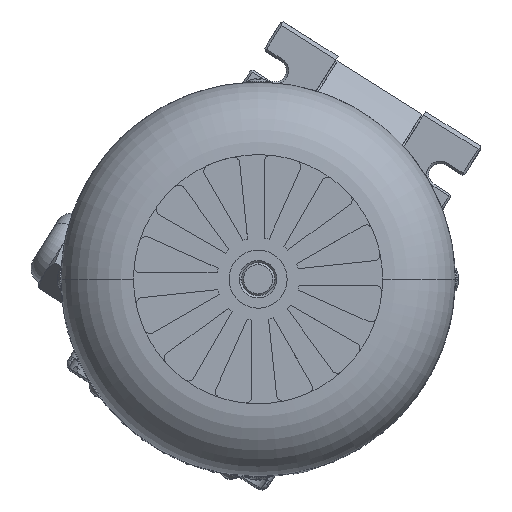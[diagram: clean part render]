
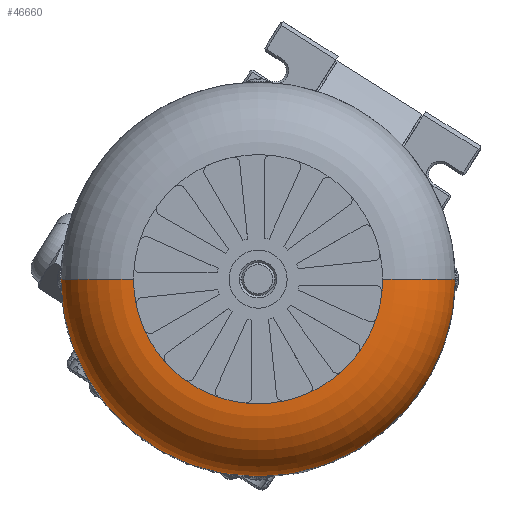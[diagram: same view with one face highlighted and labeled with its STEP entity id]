
A CAD part, top view. The second image highlights one B-rep face of the part: STEP entity #46660.
In plain terms, the highlighted toroidal (fillet/blend) face has major radius 30 mm and minor radius 17.5 mm.
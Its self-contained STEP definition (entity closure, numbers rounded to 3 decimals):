
#21559=CARTESIAN_POINT('',(-30.0,0.,37.5));
#21560=VERTEX_POINT('',#21559);
#21561=CARTESIAN_POINT('',(-47.5,0.,20.));
#21562=VERTEX_POINT('',#21561);
#21563=CARTESIAN_POINT('',(-30.0,0.,20.0));
#21564=DIRECTION('',(0.0,-1.0,0.0));
#21565=DIRECTION('',(-1.0,0.0,0.0));
#21566=AXIS2_PLACEMENT_3D('',#21563,#21564,#21565);
#21567=CIRCLE('',#21566,17.5);
#21568=EDGE_CURVE('',#21560,#21562,#21567,.T.);
#21678=CARTESIAN_POINT('',(30.0,0.,37.5));
#21679=VERTEX_POINT('',#21678);
#21687=CARTESIAN_POINT('',(47.5,0.,20.0));
#21688=VERTEX_POINT('',#21687);
#21689=CARTESIAN_POINT('',(30.0,0.,20.0));
#21690=DIRECTION('',(0.0,-1.0,0.0));
#21691=DIRECTION('',(1.0,0.0,0.0));
#21692=AXIS2_PLACEMENT_3D('',#21689,#21690,#21691);
#21693=CIRCLE('',#21692,17.5);
#21694=EDGE_CURVE('',#21688,#21679,#21693,.T.);
#22006=CARTESIAN_POINT('',(0.0,0.,20.0));
#22007=DIRECTION('',(0.0,0.0,1.0));
#22008=DIRECTION('',(-1.0,0.0,0.0));
#22009=AXIS2_PLACEMENT_3D('',#22006,#22007,#22008);
#22010=CIRCLE('',#22009,47.5);
#22011=EDGE_CURVE('',#21562,#21688,#22010,.T.);
#43167=CARTESIAN_POINT('',(-27.415,-12.182,37.5));
#43168=VERTEX_POINT('',#43167);
#43273=CARTESIAN_POINT('',(-17.651,-24.258,37.5));
#43274=VERTEX_POINT('',#43273);
#43379=CARTESIAN_POINT('',(-3.157,-29.833,37.5));
#43380=VERTEX_POINT('',#43379);
#43485=CARTESIAN_POINT('',(12.182,-27.415,37.5));
#43486=VERTEX_POINT('',#43485);
#43591=CARTESIAN_POINT('',(24.258,-17.651,37.5));
#43592=VERTEX_POINT('',#43591);
#43697=CARTESIAN_POINT('',(29.833,-3.157,37.5));
#43698=VERTEX_POINT('',#43697);
#44323=CARTESIAN_POINT('',(-29.34,-6.259,37.5));
#44324=VERTEX_POINT('',#44323);
#44354=CARTESIAN_POINT('',(0.0,0.,37.5));
#44355=DIRECTION('',(0.0,0.0,-1.0));
#44356=DIRECTION('',(0.978,0.209,0.0));
#44357=AXIS2_PLACEMENT_3D('',#44354,#44355,#44356);
#44358=CIRCLE('',#44357,30.);
#44359=EDGE_CURVE('',#43168,#44324,#44358,.T.);
#44411=CARTESIAN_POINT('',(-22.28,-20.09,37.5));
#44412=VERTEX_POINT('',#44411);
#44442=CARTESIAN_POINT('',(0.0,0.,37.5));
#44443=DIRECTION('',(0.0,0.0,-1.));
#44444=DIRECTION('',(0.743,0.67,0.0));
#44445=AXIS2_PLACEMENT_3D('',#44442,#44443,#44444);
#44446=CIRCLE('',#44445,30.0);
#44447=EDGE_CURVE('',#43274,#44412,#44446,.T.);
#44499=CARTESIAN_POINT('',(-9.249,-28.539,37.5));
#44500=VERTEX_POINT('',#44499);
#44530=CARTESIAN_POINT('',(0.0,0.,37.5));
#44531=DIRECTION('',(0.0,0.0,-1.0));
#44532=DIRECTION('',(0.308,0.951,0.0));
#44533=AXIS2_PLACEMENT_3D('',#44530,#44531,#44532);
#44534=CIRCLE('',#44533,30.0);
#44535=EDGE_CURVE('',#43380,#44500,#44534,.T.);
#44587=CARTESIAN_POINT('',(6.259,-29.34,37.5));
#44588=VERTEX_POINT('',#44587);
#44618=CARTESIAN_POINT('',(0.0,0.,37.5));
#44619=DIRECTION('',(0.0,0.0,-1.0));
#44620=DIRECTION('',(-0.209,0.978,0.0));
#44621=AXIS2_PLACEMENT_3D('',#44618,#44619,#44620);
#44622=CIRCLE('',#44621,30.);
#44623=EDGE_CURVE('',#43486,#44588,#44622,.T.);
#44675=CARTESIAN_POINT('',(20.09,-22.28,37.5));
#44676=VERTEX_POINT('',#44675);
#44706=CARTESIAN_POINT('',(0.0,0.,37.5));
#44707=DIRECTION('',(0.0,0.0,-1.0));
#44708=DIRECTION('',(-0.67,0.743,0.0));
#44709=AXIS2_PLACEMENT_3D('',#44706,#44707,#44708);
#44710=CIRCLE('',#44709,30.);
#44711=EDGE_CURVE('',#43592,#44676,#44710,.T.);
#44763=CARTESIAN_POINT('',(28.539,-9.249,37.5));
#44764=VERTEX_POINT('',#44763);
#44794=CARTESIAN_POINT('',(0.0,0.,37.5));
#44795=DIRECTION('',(0.0,0.0,-1.0));
#44796=DIRECTION('',(-0.951,0.308,0.0));
#44797=AXIS2_PLACEMENT_3D('',#44794,#44795,#44796);
#44798=CIRCLE('',#44797,30.0);
#44799=EDGE_CURVE('',#43698,#44764,#44798,.T.);
#46508=CARTESIAN_POINT('',(0.0,0.,37.5));
#46509=DIRECTION('',(0.0,0.0,-1.0));
#46510=DIRECTION('',(-1.0,0.0,0.0));
#46511=AXIS2_PLACEMENT_3D('',#46508,#46509,#46510);
#46512=CIRCLE('',#46511,30.0);
#46513=EDGE_CURVE('',#44324,#21560,#46512,.T.);
#46520=CARTESIAN_POINT('',(0.0,0.,37.5));
#46521=DIRECTION('',(0.0,0.0,-1.0));
#46522=DIRECTION('',(-1.0,0.0,0.0));
#46523=AXIS2_PLACEMENT_3D('',#46520,#46521,#46522);
#46524=CIRCLE('',#46523,30.0);
#46525=EDGE_CURVE('',#44412,#43168,#46524,.T.);
#46532=CARTESIAN_POINT('',(0.0,0.,37.5));
#46533=DIRECTION('',(0.0,0.0,-1.0));
#46534=DIRECTION('',(-1.0,0.0,0.0));
#46535=AXIS2_PLACEMENT_3D('',#46532,#46533,#46534);
#46536=CIRCLE('',#46535,30.0);
#46537=EDGE_CURVE('',#44500,#43274,#46536,.T.);
#46544=CARTESIAN_POINT('',(0.0,0.,37.5));
#46545=DIRECTION('',(0.0,0.0,-1.0));
#46546=DIRECTION('',(-1.0,0.0,0.0));
#46547=AXIS2_PLACEMENT_3D('',#46544,#46545,#46546);
#46548=CIRCLE('',#46547,30.0);
#46549=EDGE_CURVE('',#44588,#43380,#46548,.T.);
#46556=CARTESIAN_POINT('',(0.0,0.,37.5));
#46557=DIRECTION('',(0.0,0.0,-1.0));
#46558=DIRECTION('',(-1.0,0.0,0.0));
#46559=AXIS2_PLACEMENT_3D('',#46556,#46557,#46558);
#46560=CIRCLE('',#46559,30.0);
#46561=EDGE_CURVE('',#44676,#43486,#46560,.T.);
#46568=CARTESIAN_POINT('',(0.0,0.,37.5));
#46569=DIRECTION('',(0.0,0.0,-1.0));
#46570=DIRECTION('',(-1.0,0.0,0.0));
#46571=AXIS2_PLACEMENT_3D('',#46568,#46569,#46570);
#46572=CIRCLE('',#46571,30.0);
#46573=EDGE_CURVE('',#44764,#43592,#46572,.T.);
#46580=CARTESIAN_POINT('',(0.0,0.,37.5));
#46581=DIRECTION('',(0.0,0.0,-1.0));
#46582=DIRECTION('',(-1.0,0.0,0.0));
#46583=AXIS2_PLACEMENT_3D('',#46580,#46581,#46582);
#46584=CIRCLE('',#46583,30.0);
#46585=EDGE_CURVE('',#21679,#43698,#46584,.T.);
#46637=CARTESIAN_POINT('',(0.0,0.,20.0));
#46638=DIRECTION('',(0.0,0.0,-1.0));
#46639=DIRECTION('',(-1.0,0.0,0.0));
#46640=AXIS2_PLACEMENT_3D('',#46637,#46638,#46639);
#46641=TOROIDAL_SURFACE('',#46640,30.0,17.5);
#46642=ORIENTED_EDGE('',*,*,#21568,.T.);
#46643=ORIENTED_EDGE('',*,*,#22011,.T.);
#46644=ORIENTED_EDGE('',*,*,#21694,.T.);
#46645=ORIENTED_EDGE('',*,*,#46585,.T.);
#46646=ORIENTED_EDGE('',*,*,#44799,.T.);
#46647=ORIENTED_EDGE('',*,*,#46573,.T.);
#46648=ORIENTED_EDGE('',*,*,#44711,.T.);
#46649=ORIENTED_EDGE('',*,*,#46561,.T.);
#46650=ORIENTED_EDGE('',*,*,#44623,.T.);
#46651=ORIENTED_EDGE('',*,*,#46549,.T.);
#46652=ORIENTED_EDGE('',*,*,#44535,.T.);
#46653=ORIENTED_EDGE('',*,*,#46537,.T.);
#46654=ORIENTED_EDGE('',*,*,#44447,.T.);
#46655=ORIENTED_EDGE('',*,*,#46525,.T.);
#46656=ORIENTED_EDGE('',*,*,#44359,.T.);
#46657=ORIENTED_EDGE('',*,*,#46513,.T.);
#46658=EDGE_LOOP('',(#46642,#46643,#46644,#46645,#46646,#46647,#46648,#46649,#46650,#46651,#46652,#46653,#46654,#46655,#46656,#46657));
#46659=FACE_OUTER_BOUND('',#46658,.T.);
#46660=ADVANCED_FACE('',(#46659),#46641,.T.);
